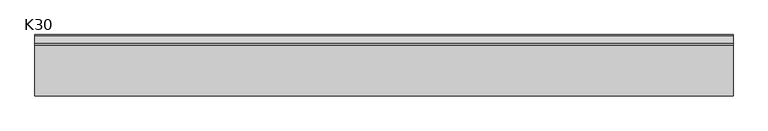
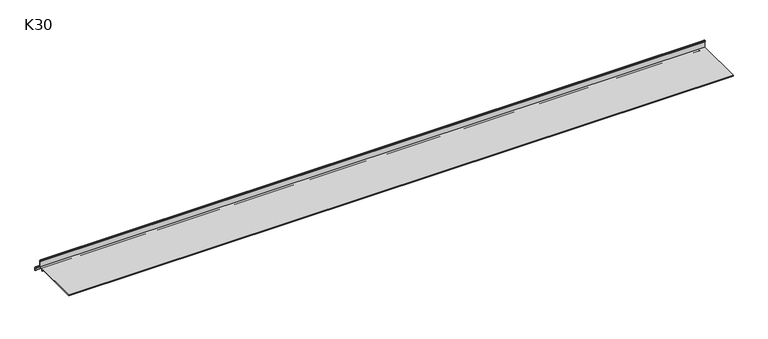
"""IFC4 building model written with IfcOpenShell, lengths in millimetres: proxy geometry, K30 Profil okapowy prosty : K30."""

import ifcopenshell
import ifcopenshell.guid

model = None  # the IFC model being written
_history = None  # IfcOwnerHistory: only IFC2X3 demands one
_inside = {}  # id of a spatial element -> (the spatial element, [elements in it])
_under = {}  # id of a project, library or spatial element -> (it, [spatial elements below it])
_declared = {}  # id of a project -> (the project, [libraries it declares])
_typed = {}  # id of a type object -> (the type object, [elements of that type])
_made_of = {}  # id of a material, layer set ... -> (it, [elements and type objects made of it])


def new_model(schema):
    """Start an empty IFC model of exactly this schema.

    Asked for "IFC4X3", IfcOpenShell would pick the latest addendum, in which some entities
    have other attributes; the version numbers below select the first issue.
    IFC2X3 requires an IfcOwnerHistory on every rooted entity: one is made here for all.
    """
    global model, _history
    if schema == "IFC4X3":
        model = ifcopenshell.file(schema_version=(4, 3, 0, 0))
    else:
        model = ifcopenshell.file(schema=schema)
    _inside.clear()
    _under.clear()
    _declared.clear()
    _typed.clear()
    _made_of.clear()
    _history = None
    if model.schema == "IFC2X3":
        org = make("IfcOrganization", Name="unknown")
        user = make(
            "IfcPersonAndOrganization",
            ThePerson=make("IfcPerson", FamilyName="unknown"),
            TheOrganization=org,
        )
        app = make(
            "IfcApplication",
            ApplicationDeveloper=org,
            Version="unknown",
            ApplicationFullName="unknown",
            ApplicationIdentifier="unknown",
        )
        _history = make(
            "IfcOwnerHistory",
            OwningUser=user,
            OwningApplication=app,
            ChangeAction="ADDED",
            CreationDate=0,
        )
    return model


def make(cls, **values):
    """One entity of the class cls with the attributes given. An attribute that is None is left unset."""
    return model.create_entity(
        cls, **{name: value for name, value in values.items() if value is not None}
    )


def rooted(cls, **values):
    """An entity with a GlobalId (a new one), such as an element, a storey or a relation."""
    return make(cls, GlobalId=ifcopenshell.guid.new(), OwnerHistory=_history, **values)


def si_unit(unit_type, name, prefix=None):
    """IfcSIUnit, for example si_unit("LENGTHUNIT", "METRE", prefix="MILLI")."""
    return make("IfcSIUnit", UnitType=unit_type, Prefix=prefix, Name=name)


def assignment(units):
    """IfcUnitAssignment: the units of a project."""
    return None if units is None else make("IfcUnitAssignment", Units=units)


def point(xyz):
    """IfcCartesianPoint."""
    return None if xyz is None else make("IfcCartesianPoint", Coordinates=xyz)


def direction(xyz):
    """IfcDirection."""
    return None if xyz is None else make("IfcDirection", DirectionRatios=xyz)


def frame(location, z_axis=None, x_axis=None):
    """IfcAxis2Placement3D, a coordinate frame: its origin and axes. An axis left out is left unset."""
    return make(
        "IfcAxis2Placement3D",
        Location=point(location),
        Axis=direction(z_axis),
        RefDirection=direction(x_axis),
    )


def origin():
    """The frame at (0, 0, 0) with its axes left unset."""
    return frame((0.0, 0.0, 0.0))


def place(relative_to, where):
    """IfcLocalPlacement: puts the frame where relative to a parent placement (None: the world)."""
    return make(
        "IfcLocalPlacement", PlacementRelTo=relative_to, RelativePlacement=where
    )


def context(
    kind, dimensions, precision=None, world=None, true_north=None, identifier=None
):
    """IfcGeometricRepresentationContext, for example the 3D "Model" context."""
    return make(
        "IfcGeometricRepresentationContext",
        ContextIdentifier=identifier,
        ContextType=kind,
        CoordinateSpaceDimension=dimensions,
        Precision=precision,
        WorldCoordinateSystem=world,
        TrueNorth=true_north,
    )


def project(units=None, contexts=None):
    """IfcProject with its units and contexts."""
    return rooted(
        "IfcProject",
        Name="project",
        RepresentationContexts=contexts,
        UnitsInContext=assignment(units),
    )


def spatial(cls, under=None, at=None, **own):
    """A site, building, storey or space (cls), placed at a placement, below another one or the project."""
    s = rooted(cls, ObjectPlacement=at, **own)
    if under is not None:
        _under.setdefault(under.id(), (under, []))[1].append(s)
    return s


def polyline(points):
    """IfcPolyline through the points."""
    return make("IfcPolyline", Points=[point(p) for p in points])


def circle_curve(where, radius):
    """IfcCircle in the frame where."""
    return make("IfcCircle", Position=where, Radius=radius)


def shape(context_of_items, identifier, shape_type, items):
    """IfcShapeRepresentation: the items that make up one representation, for example the "Body"."""
    return make(
        "IfcShapeRepresentation",
        ContextOfItems=context_of_items,
        RepresentationIdentifier=identifier,
        RepresentationType=shape_type,
        Items=items,
    )


def source(mapping_origin, context_of_items, identifier, shape_type, items):
    """IfcRepresentationMap: a shape defined once, which mapped items show again and again."""
    return make(
        "IfcRepresentationMap",
        MappingOrigin=mapping_origin,
        MappedRepresentation=shape(context_of_items, identifier, shape_type, items),
    )


def transform(
    local_origin,
    x_axis=None,
    y_axis=None,
    z_axis=None,
    scale=None,
    scale2=None,
    scale3=None,
    uniform=True,
):
    """IfcCartesianTransformationOperator3D, or its non-uniform kind. x_axis, y_axis, z_axis: its Axis1, 2, 3."""
    if uniform:
        return make(
            "IfcCartesianTransformationOperator3D",
            Axis1=direction(x_axis),
            Axis2=direction(y_axis),
            LocalOrigin=point(local_origin),
            Scale=scale,
            Axis3=direction(z_axis),
        )
    return make(
        "IfcCartesianTransformationOperator3DnonUniform",
        Axis1=direction(x_axis),
        Axis2=direction(y_axis),
        LocalOrigin=point(local_origin),
        Scale=scale,
        Axis3=direction(z_axis),
        Scale2=scale2,
        Scale3=scale3,
    )


def mapped(mapping_source, mapping_target):
    """IfcMappedItem: shows the shape of a source again, moved by a transform."""
    return make(
        "IfcMappedItem", MappingSource=mapping_source, MappingTarget=mapping_target
    )


def made_of(thing, what):
    """Note that an element or type object is made of a material, layer set ...; save() writes the relation."""
    if what is not None:
        _made_of.setdefault(what.id(), (what, []))[1].append(thing)
    return thing


def element(
    cls,
    number,
    at=None,
    inside=None,
    cuts=None,
    type_object=None,
    material=None,
    context=None,
    identifier="Body",
    shape_type=None,
    held_by="IfcProductDefinitionShape",
    body=None,
    shapes=None,
    **own,
):
    """One element of the class cls, such as IfcWall. Its Tag is "e" and its number.

    at: its placement. inside: the storey or other place that contains it. cuts: it is an
    opening in that element (IfcRelVoidsElement). A single representation is given by context,
    identifier, shape_type and body (its items); several are given by shapes. held_by: the class
    of the entity that holds the representations. save() writes the other relations.
    """
    e = rooted(cls, Tag="e%d" % number, ObjectPlacement=at, **own)
    if body is not None:
        shapes = [shape(context, identifier, shape_type, body)]
    if shapes is not None:
        e.Representation = make(held_by, Representations=shapes)
    if inside is not None:
        _inside.setdefault(inside.id(), (inside, []))[1].append(e)
    if cuts is not None:
        rooted(
            "IfcRelVoidsElement", RelatingBuildingElement=cuts, RelatedOpeningElement=e
        )
    if type_object is not None:
        _typed.setdefault(type_object.id(), (type_object, []))[1].append(e)
    return made_of(e, material)


def aggregate(whole, parts):
    """IfcRelAggregates: a whole, such as a stair, and the parts it consists of."""
    return rooted("IfcRelAggregates", RelatingObject=whole, RelatedObjects=parts)


def save(model, path):
    """Write the relations noted so far, then the file.

    IfcRelAggregates (storeys below a building ...), IfcRelContainedInSpatialStructure (elements
    in a storey), IfcRelDefinesByType, IfcRelAssociatesMaterial and IfcRelDeclares: one each for
    every whole, place, type object, material and project.
    """
    for whole, parts in _under.values():
        aggregate(whole, parts)
    for where, things in _inside.values():
        rooted(
            "IfcRelContainedInSpatialStructure",
            RelatedElements=things,
            RelatingStructure=where,
        )
    for kind, things in _typed.values():
        rooted("IfcRelDefinesByType", RelatedObjects=things, RelatingType=kind)
    for what, things in _made_of.values():
        rooted("IfcRelAssociatesMaterial", RelatedObjects=things, RelatingMaterial=what)
    for by, libraries in _declared.values():
        rooted("IfcRelDeclares", RelatingContext=by, RelatedDefinitions=libraries)
    model.write(path)


def plane_surface(at):
    """IfcPlane: the flat surface through the origin of the frame at, square to its z axis."""
    return make("IfcPlane", Position=at)


def cylinder_surface(at, radius):
    """IfcCylindricalSurface: all points at the distance radius from the z axis of the frame at."""
    return make("IfcCylindricalSurface", Position=at, Radius=radius)


def revolved_surface(curve, axis_point, axis_direction):
    """IfcSurfaceOfRevolution: the curve turned about the line through axis_point along axis_direction."""
    return make(
        "IfcSurfaceOfRevolution",
        SweptCurve=make("IfcArbitraryOpenProfileDef", ProfileType="CURVE", Curve=curve),
        AxisPosition=make("IfcAxis1Placement", Location=point(axis_point), Axis=direction(axis_direction)),
    )


def advanced_brep(points, edges, surfaces, faces):
    """IfcAdvancedBrep: a solid bounded by faces that lie on surfaces and meet in shared edges.

    An edge is (start, end): straight between two places in points (the first is 0);
    or (start, end, curve); or (start, end, curve, False) where it runs against its curve.
    A face is (place in surfaces, loops), or (place, loops, False) where it looks against
    its surface's normal. A loop lists edges by number (the first is 1), with a minus sign
    where the edge is run from its end to its start. The first loop is the outer one.
    """
    corners = [point(p) for p in points]
    vertices = [make("IfcVertexPoint", VertexGeometry=c) for c in corners]
    made = []
    for start, end, *more in edges:
        made.append(
            make(
                "IfcEdgeCurve",
                EdgeStart=vertices[start],
                EdgeEnd=vertices[end],
                EdgeGeometry=more[0] if more else make("IfcPolyline", Points=[corners[start], corners[end]]),
                SameSense=more[1] if len(more) > 1 else True,
            )
        )
    hull = []
    for where, loops, *sense in faces:
        bounds = []
        for j, loop in enumerate(loops):
            ring = [make("IfcOrientedEdge", EdgeElement=made[abs(k) - 1], Orientation=k > 0) for k in loop]
            bounds.append(
                make(
                    "IfcFaceOuterBound" if j == 0 else "IfcFaceBound",
                    Bound=make("IfcEdgeLoop", EdgeList=ring),
                    Orientation=True,
                )
            )
        hull.append(make("IfcAdvancedFace", Bounds=bounds, FaceSurface=surfaces[where], SameSense=sense[0] if sense else True))
    return make("IfcAdvancedBrep", Outer=make("IfcClosedShell", CfsFaces=hull))


def k30_89902d99(model_context):
    return source(origin(), model_context, "Body", "AdvancedBrep", [
        advanced_brep(
        [(0.0, -91.6460788, -13.5016844), (0.0, 0.9925542, -13.5016844), (0.0, 0.9925542, -2.7625682), (0.0, 0.0, -1.79984), (0.0, 0.0, 0.0), (0.0, 2.7996151, -2.7535764), (0.0, 2.800002, -12.5354797), (0.0, 3.2334641, -13.4129661), (0.0, 17.5987866, -24.2341015), (0.0, 18.7937577, -26.6303216), (0.0, 18.7937577, -30.413733), (0.0, 17.0937577, -30.413733), (0.0, 17.0937577, -26.9794046), (0.0, 16.2971103, -25.3819245), (0.0, 2.7771023, -15.1975491), (0.0, -4.0074458, -15.1975491), (0.0, -4.0074458, -19.1975491), (0.0, -5.0074458, -19.1975491), (0.0, -5.0074458, -15.1970829), (0.0, -91.6460788, -15.1970829), (1252.8900717, -91.6460788, -13.5016844), (1252.8900717, -91.6460788, -15.1970829), (1252.8900717, -5.0074458, -15.1970829), (1252.8900717, -5.0074458, -19.1975491), (1252.8900717, -4.0074458, -19.1975491), (1252.8900717, -4.0074458, -15.1975491), (1252.8900717, 2.7771023, -15.1975491), (1252.8900717, 16.2971103, -25.3819245), (1252.8900717, 17.0937577, -26.9794046), (1252.8900717, 17.0937577, -30.413733), (1252.8900717, 18.7937577, -30.413733), (1252.8900717, 18.7937577, -26.6303216), (1252.8900717, 17.5987866, -24.2341015), (1252.8900717, 3.2334641, -13.4129661), (1252.8900717, 2.800002, -12.5354797), (1252.8900717, 2.800002, -2.7535764), (1252.8900717, 0.0, 0.0), (1252.8900717, 0.0, -1.79984), (1252.8900717, 0.9925542, -2.7625682), (1252.8900717, 0.9925542, -13.5016844)],
        [
            (0, 1),
            (1, 2),
            (2, 3, circle_curve(frame((0.0, 0.0049314, -2.7877721), z_axis=(1.0, 0.0, 0.0), x_axis=(0.0, -0.004991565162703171, 0.9999875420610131)), 0.9879444)),
            (3, 4),
            (4, 5, circle_curve(frame((0.0, 0.0455531, -2.7536853), z_axis=(-1.0, 0.0, 0.0), x_axis=(0.0, 0.9999999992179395, 3.954897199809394e-05)), 2.754062)),
            (5, 6),
            (6, 7, circle_curve(frame((0.0, 3.8882646, -12.5437023), z_axis=(1.0, 0.0, 0.0), x_axis=(0.0, -0.6016762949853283, -0.7987400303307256)), 1.0882937)),
            (7, 8),
            (8, 9, circle_curve(frame((0.0, 15.7937577, -26.6303216), z_axis=(-1.0, 0.0, 0.0), x_axis=(0.0, 1.0, 0.0)), 3.0)),
            (9, 10),
            (10, 11, circle_curve(frame((0.0, 17.9437577, -30.413733), z_axis=(-1.0, 0.0, 0.0), x_axis=(0.0, -1.0, -1.0699937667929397e-12)), 0.85)),
            (11, 12),
            (12, 13, circle_curve(frame((0.0, 15.0937577, -26.9794046), z_axis=(1.0, 0.0, 0.0), x_axis=(0.0, 0.6016762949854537, 0.7987400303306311)), 2.0)),
            (13, 14),
            (14, 15),
            (15, 16),
            (16, 17),
            (17, 18),
            (18, 19),
            (19, 0),
            (20, 21),
            (21, 22),
            (22, 23),
            (23, 24),
            (24, 25),
            (25, 26),
            (26, 27),
            (27, 28, circle_curve(frame((1252.8900717, 15.0937577, -26.9794046), z_axis=(-1.0, 0.0, 0.0), x_axis=(0.0, 0.6016762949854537, 0.7987400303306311)), 2.0)),
            (28, 29),
            (29, 30, circle_curve(frame((1252.8900717, 17.9437577, -30.413733), z_axis=(1.0, 0.0, 0.0), x_axis=(0.0, -1.0, -1.0699937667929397e-12)), 0.85)),
            (30, 31),
            (31, 32, circle_curve(frame((1252.8900717, 15.7937577, -26.6303216), z_axis=(1.0, 0.0, 0.0), x_axis=(0.0, 1.0, 0.0)), 3.0)),
            (32, 33),
            (33, 34, circle_curve(frame((1252.8900717, 3.8882646, -12.5437023), z_axis=(-1.0, 0.0, 0.0), x_axis=(0.0, -0.6016762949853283, -0.7987400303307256)), 1.0882937)),
            (34, 35),
            (35, 36, circle_curve(frame((1252.8900717, 0.0455531, -2.7536853), z_axis=(1.0, 0.0, 0.0), x_axis=(0.0, 0.9999999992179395, 3.954897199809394e-05)), 2.754062)),
            (36, 37),
            (37, 38, circle_curve(frame((1252.8900717, 0.0049314, -2.7877721), z_axis=(-1.0, 0.0, 0.0), x_axis=(0.0, -0.004991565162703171, 0.9999875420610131)), 0.9879444)),
            (38, 39),
            (39, 20),
            (0, 20),
            (39, 1),
            (19, 21),
            (18, 22),
            (17, 23),
            (16, 24),
            (15, 25),
            (14, 26),
            (13, 27),
            (12, 28),
            (11, 29),
            (10, 30),
            (9, 31),
            (8, 32),
            (7, 33),
            (6, 34),
            (5, 35),
            (4, 36),
            (3, 37),
            (2, 38),
        ],
        [
            plane_surface(frame((0.0, 0.0, 0.0), z_axis=(-1.0, 0.0, 0.0), x_axis=(0.0, 0.0, 1.0))),
            plane_surface(frame((1252.8900717, 0.0, 0.0), z_axis=(1.0, 0.0, 0.0), x_axis=(0.0, 0.0, 1.0))),
            plane_surface(frame((0.0, 0.9925542, -13.5016844), z_axis=(0.0, 0.0, 1.0), x_axis=(1.0, 0.0, 0.0))),
            plane_surface(frame((0.0, -91.6460788, -13.5016844), z_axis=(0.0, -1.0, 0.0), x_axis=(1.0, 0.0, 0.0))),
            plane_surface(frame((0.0, -91.6460788, -15.1970829), z_axis=(0.0, 0.0, -1.0), x_axis=(1.0, 0.0, 0.0))),
            plane_surface(frame((0.0, -5.0074458, -15.1970829), z_axis=(0.0, -1.0, 0.0), x_axis=(1.0, 0.0, 0.0))),
            plane_surface(frame((0.0, -5.0074458, -19.1975491), z_axis=(0.0, 0.0, -1.0), x_axis=(1.0, 0.0, 0.0))),
            plane_surface(frame((0.0, -4.0074458, -19.1975491), z_axis=(0.0, 1.0, 0.0), x_axis=(1.0, 0.0, 0.0))),
            plane_surface(frame((0.0, -4.0074458, -15.1975491), z_axis=(0.0, 0.0, -1.0), x_axis=(1.0, 0.0, 0.0))),
            plane_surface(frame((0.0, 2.7771023, -15.1975491), z_axis=(0.0, -0.6016762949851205, -0.798740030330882), x_axis=(1.0, 0.0, 0.0))),
            revolved_surface(polyline([(1252.8900717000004, 16.297110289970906, -25.381924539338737), (0.0, 16.297110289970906, -25.381924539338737)]), (0.0, 15.0937577, -26.9794046), (1.0000000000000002, 0.0, 0.0)),
            plane_surface(frame((0.0, 17.0937577, -26.9794046), z_axis=(0.0, -1.0, 0.0), x_axis=(1.0, 0.0, 0.0))),
            cylinder_surface(frame((0.0, 17.9437577, -30.413733), z_axis=(-1.0, 0.0, 0.0), x_axis=(0.0, -1.0, -1.0699937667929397e-12)), 0.85),
            plane_surface(frame((0.0, 18.7937577, -30.413733), z_axis=(0.0, 1.0, 0.0), x_axis=(1.0, 0.0, 0.0))),
            cylinder_surface(frame((0.0, 15.7937577, -26.6303216), z_axis=(-1.0, 0.0, 0.0), x_axis=(0.0, 1.0, 0.0)), 3.0),
            plane_surface(frame((0.0, 17.5987866, -24.2341015), z_axis=(0.0, 0.6016762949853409, 0.7987400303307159), x_axis=(1.0, 0.0, 0.0))),
            revolved_surface(polyline([(1252.8900717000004, 3.2334640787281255, -13.412966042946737), (0.0, 3.2334640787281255, -13.412966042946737)]), (0.0, 3.8882646, -12.5437023), (1.0000000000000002, 0.0, 0.0)),
            plane_surface(frame((0.0, 2.800002, -12.5354797), z_axis=(0.0, 1.0, 0.0), x_axis=(1.0, 0.0, 0.0))),
            cylinder_surface(frame((0.0, 0.0455531, -2.7536853), z_axis=(-1.0000000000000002, 0.0, 0.0), x_axis=(0.0, 0.9999999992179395, 3.954897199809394e-05)), 2.754062),
            plane_surface(frame((0.0, 0.0, 0.0), z_axis=(0.0, -1.0, 0.0), x_axis=(1.0, 0.0, 0.0))),
            revolved_surface(polyline([(1252.8900717, 1.115027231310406e-08, -1.799840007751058), (0.0, 1.115027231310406e-08, -1.799840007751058)]), (0.0, 0.0049314, -2.7877721), (1.0, 0.0, 0.0)),
            plane_surface(frame((0.0, 0.9925542, -2.7625682), z_axis=(0.0, -1.0, 0.0), x_axis=(1.0, 0.0, 0.0))),
        ],
        [
            (0, [[1, 2, 3, 4, 5, 6, 7, 8, 9, 10, 11, 12, 13, 14, 15, 16, 17, 18, 19, 20]]),
            (1, [[21, 22, 23, 24, 25, 26, 27, 28, 29, 30, 31, 32, 33, 34, 35, 36, 37, 38, 39, 40]]),
            (2, [[41, -40, 42, -1]]),
            (3, [[43, -21, -41, -20]]),
            (4, [[44, -22, -43, -19]]),
            (5, [[45, -23, -44, -18]]),
            (6, [[46, -24, -45, -17]]),
            (7, [[47, -25, -46, -16]]),
            (8, [[48, -26, -47, -15]]),
            (9, [[49, -27, -48, -14]]),
            (10, [[50, -28, -49, -13]]),
            (11, [[51, -29, -50, -12]]),
            (12, [[52, -30, -51, -11]]),
            (13, [[53, -31, -52, -10]]),
            (14, [[54, -32, -53, -9]]),
            (15, [[55, -33, -54, -8]]),
            (16, [[56, -34, -55, -7]]),
            (17, [[57, -35, -56, -6]]),
            (18, [[58, -36, -57, -5]]),
            (19, [[59, -37, -58, -4]]),
            (20, [[60, -38, -59, -3]]),
            (21, [[-42, -39, -60, -2]]),
        ],
    ),
    ])


if __name__ == "__main__":
    model = new_model("IFC4")
    model_context = context("Model", 3, world=origin())
    ifc_project = project(units=[si_unit("LENGTHUNIT", "METRE", prefix="MILLI")], contexts=[model_context])
    site = spatial("IfcSite", under=ifc_project)
    building = spatial("IfcBuilding", under=site)
    placement = place(None, origin())
    k30_shape = k30_89902d99(model_context)
    element("IfcBuildingElementProxy", 1, Name="K30 Profil okapowy prosty : K30", ObjectType="K30 Profil okapowy prosty : K30", at=placement, inside=building, context=model_context, shape_type="MappedRepresentation", body=[
        mapped(k30_shape, transform((0.0, 0.0, 0.0), x_axis=(1.0, 0.0, 0.0), y_axis=(0.0, 1.0, 0.0), z_axis=(0.0, 0.0, 1.0))),
    ])
    save(model, "model.ifc")
